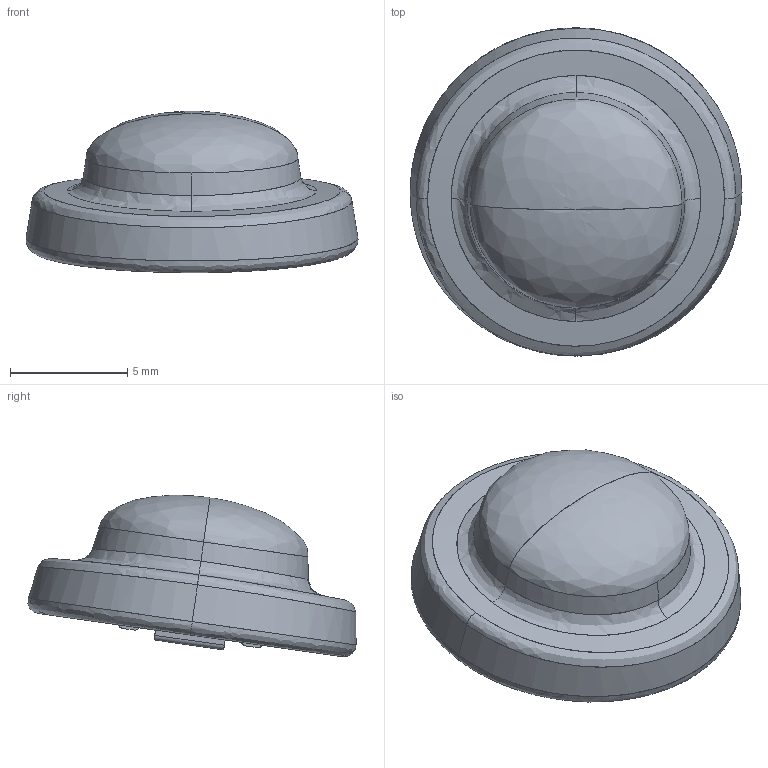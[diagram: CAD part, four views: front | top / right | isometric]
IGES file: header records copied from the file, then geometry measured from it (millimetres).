
Start section: Speaker 2 inch..SLDPRT - PrototypeComponentType Speaker 2 inch..SLDPRT - PrototypeComponentType Speaker 2 inch..SLDPRT - PrototypeComponentType Speaker 2 inch..SLDPRT - PrototypeComponentType 10 rocker-switch-KCD1..SLDPRT - PrototypeComponentType 10 rocker-switch-KCD1..SLDPRT - PrototypeComponentType 10 rocker-switch-KCD1..SLDPRT - PrototypeComponentType 10 rocker-switch-KCD1..SLDPRT - PrototypeCo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
Global section: file name: C:\Users\Victor\Desktop\BotonConvexo.igs; native system: Rhinoceros ( Feb 27 2019 ); preprocessor: Trout Lake IGES 012 Feb 27 2019; date: 241028.191422; units: millimetre
Bounding box: 14.18 x 14.02 x 6.9 mm (x, y, z)
Surface area: 569.3 mm2 (no closed solid volume)
Topology: 0 solids, 0 shells, 110 faces, 1351 edges, 1349 vertices
Faces by surface type: bspline 110
